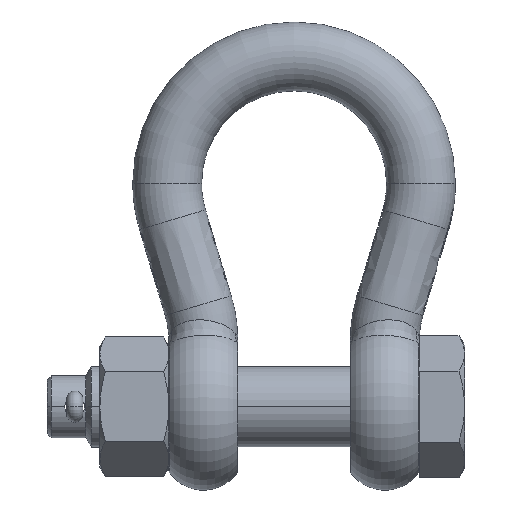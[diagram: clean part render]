
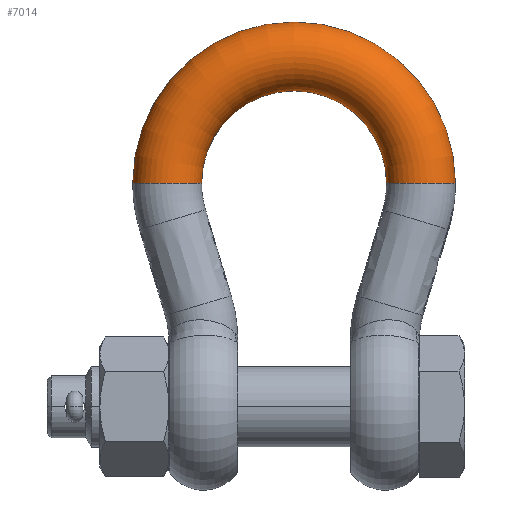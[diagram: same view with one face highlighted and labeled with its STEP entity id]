
A CAD part, top view. The second image highlights one B-rep face of the part: STEP entity #7014.
In plain terms, the highlighted toroidal (fillet/blend) face has major radius 35 mm and minor radius 9.5 mm.
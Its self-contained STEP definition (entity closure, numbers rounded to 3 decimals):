
#427 = DIRECTION ( 'NONE',  ( 0., 0., -1. ) ) ;
#467 = CARTESIAN_POINT ( 'NONE',  ( -25.5, 61.6, 0. ) ) ;
#664 = EDGE_LOOP ( 'NONE', ( #12879, #25819, #23438, #27370 ) ) ;
#1112 = DIRECTION ( 'NONE',  ( 0., 0., 1. ) ) ;
#3274 = CARTESIAN_POINT ( 'NONE',  ( 44.5, 61.6, 0. ) ) ;
#3499 = CARTESIAN_POINT ( 'NONE',  ( -35., 61.6, 0. ) ) ;
#3661 = CIRCLE ( 'NONE', #3917, 44.5 ) ;
#3764 = CIRCLE ( 'NONE', #12784, 9.5 ) ;
#3917 = AXIS2_PLACEMENT_3D ( 'NONE', #12494, #7872, #8135 ) ;
#4022 = DIRECTION ( 'NONE',  ( 0., -1., 0. ) ) ;
#4413 = CARTESIAN_POINT ( 'NONE',  ( -44.5, 61.6, 0. ) ) ;
#4577 = VERTEX_POINT ( 'NONE', #21141 ) ;
#5061 = VERTEX_POINT ( 'NONE', #4413 ) ;
#6403 = AXIS2_PLACEMENT_3D ( 'NONE', #3499, #9746, #22451 ) ;
#7014 = ADVANCED_FACE ( 'NONE', ( #11668 ), #25630, .T. ) ;
#7435 = DIRECTION ( 'NONE',  ( 0., 0., 1. ) ) ;
#7872 = DIRECTION ( 'NONE',  ( 0., 0., 1. ) ) ;
#8135 = DIRECTION ( 'NONE',  ( 1., 0., 0. ) ) ;
#9746 = DIRECTION ( 'NONE',  ( 0., 1., 0. ) ) ;
#9846 = CARTESIAN_POINT ( 'NONE',  ( 0., 61.6, 0. ) ) ;
#11668 = FACE_OUTER_BOUND ( 'NONE', #664, .T. ) ;
#12485 = CARTESIAN_POINT ( 'NONE',  ( 35., 61.6, 0. ) ) ;
#12494 = CARTESIAN_POINT ( 'NONE',  ( 0., 61.6, 0. ) ) ;
#12784 = AXIS2_PLACEMENT_3D ( 'NONE', #12485, #4022, #427 ) ;
#12879 = ORIENTED_EDGE ( 'NONE', *, *, #22550, .F. ) ;
#13370 = VERTEX_POINT ( 'NONE', #3274 ) ;
#15507 = CARTESIAN_POINT ( 'NONE',  ( 0., 61.6, 0. ) ) ;
#16032 = DIRECTION ( 'NONE',  ( 1., 0., 0. ) ) ;
#16041 = CIRCLE ( 'NONE', #6403, 9.5 ) ;
#16895 = CIRCLE ( 'NONE', #26947, 25.5 ) ;
#17740 = EDGE_CURVE ( 'NONE', #4577, #23332, #16895, .T. ) ;
#20225 = AXIS2_PLACEMENT_3D ( 'NONE', #9846, #1112, #16032 ) ;
#21141 = CARTESIAN_POINT ( 'NONE',  ( 25.5, 61.6, 0. ) ) ;
#22451 = DIRECTION ( 'NONE',  ( -1., 0., 0. ) ) ;
#22550 = EDGE_CURVE ( 'NONE', #13370, #4577, #3764, .T. ) ;
#23006 = EDGE_CURVE ( 'NONE', #5061, #23332, #16041, .T. ) ;
#23332 = VERTEX_POINT ( 'NONE', #467 ) ;
#23438 = ORIENTED_EDGE ( 'NONE', *, *, #23006, .T. ) ;
#25630 = TOROIDAL_SURFACE ( 'NONE', #20225, 35., 9.5 ) ;
#25819 = ORIENTED_EDGE ( 'NONE', *, *, #27185, .T. ) ;
#26443 = DIRECTION ( 'NONE',  ( 1., 0., 0. ) ) ;
#26947 = AXIS2_PLACEMENT_3D ( 'NONE', #15507, #7435, #26443 ) ;
#27185 = EDGE_CURVE ( 'NONE', #13370, #5061, #3661, .T. ) ;
#27370 = ORIENTED_EDGE ( 'NONE', *, *, #17740, .F. ) ;
